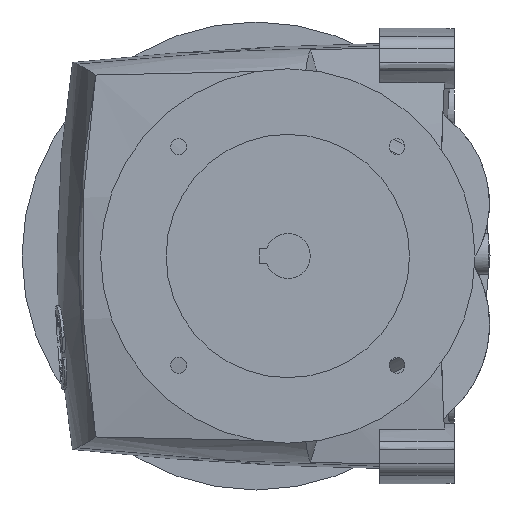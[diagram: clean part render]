
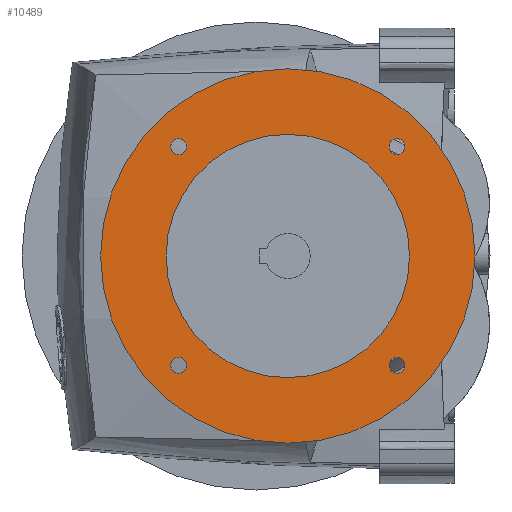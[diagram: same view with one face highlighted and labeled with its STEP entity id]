
A CAD part, left-side view. The second image highlights one B-rep face of the part: STEP entity #10489.
In plain terms, the highlighted planar face has unit normal (-1, 0, 0).
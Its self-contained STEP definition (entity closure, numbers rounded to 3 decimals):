
#1907=CARTESIAN_POINT('',(-157.,54.664,58.336));
#1908=DIRECTION('',(1.,0.,0.));
#1909=DIRECTION('',(0.,-1.,0.));
#1910=AXIS2_PLACEMENT_3D('',#1907,#1908,#1909);
#1912=CARTESIAN_POINT('',(-157.,54.664,58.336));
#1913=DIRECTION('',(1.,0.,0.));
#1914=DIRECTION('',(0.,1.,0.));
#1915=AXIS2_PLACEMENT_3D('',#1912,#1913,#1914);
#1917=CARTESIAN_POINT('',(-157.,171.336,-58.336));
#1918=DIRECTION('',(1.,0.,0.));
#1919=DIRECTION('',(0.,-1.,0.));
#1920=AXIS2_PLACEMENT_3D('',#1917,#1918,#1919);
#1922=CARTESIAN_POINT('',(-157.,171.336,-58.336));
#1923=DIRECTION('',(1.,0.,0.));
#1924=DIRECTION('',(0.,1.,0.));
#1925=AXIS2_PLACEMENT_3D('',#1922,#1923,#1924);
#1927=CARTESIAN_POINT('',(-157.,171.336,58.336));
#1928=DIRECTION('',(1.,0.,0.));
#1929=DIRECTION('',(0.,-1.,0.));
#1930=AXIS2_PLACEMENT_3D('',#1927,#1928,#1929);
#1932=CARTESIAN_POINT('',(-157.,171.336,58.336));
#1933=DIRECTION('',(1.,0.,0.));
#1934=DIRECTION('',(0.,1.,0.));
#1935=AXIS2_PLACEMENT_3D('',#1932,#1933,#1934);
#1937=CARTESIAN_POINT('',(-157.,54.664,-58.336));
#1938=DIRECTION('',(1.,0.,0.));
#1939=DIRECTION('',(0.,-1.,0.));
#1940=AXIS2_PLACEMENT_3D('',#1937,#1938,#1939);
#1942=CARTESIAN_POINT('',(-157.,54.664,-58.336));
#1943=DIRECTION('',(1.,0.,0.));
#1944=DIRECTION('',(0.,1.,0.));
#1945=AXIS2_PLACEMENT_3D('',#1942,#1943,#1944);
#1947=CARTESIAN_POINT('',(-157.,113.,0.));
#1948=DIRECTION('',(-1.,0.,0.));
#1949=DIRECTION('',(0.,1.,0.));
#1950=AXIS2_PLACEMENT_3D('',#1947,#1948,#1949);
#1952=CARTESIAN_POINT('',(-157.,113.,0.));
#1953=DIRECTION('',(-1.,0.,0.));
#1954=DIRECTION('',(0.,-1.,0.));
#1955=AXIS2_PLACEMENT_3D('',#1952,#1953,#1954);
#1957=CARTESIAN_POINT('',(-157.,113.,0.));
#1958=DIRECTION('',(1.,0.,0.));
#1959=DIRECTION('',(0.,-1.,0.));
#1960=AXIS2_PLACEMENT_3D('',#1957,#1958,#1959);
#1962=CARTESIAN_POINT('',(-157.,113.,0.));
#1963=DIRECTION('',(1.,0.,0.));
#1964=DIRECTION('',(0.,1.,0.));
#1965=AXIS2_PLACEMENT_3D('',#1962,#1963,#1964);
#8657=CARTESIAN_POINT('',(-157.,48.,0.));
#8658=CARTESIAN_POINT('',(-157.,178.,0.));
#8659=VERTEX_POINT('',#8657);
#8660=VERTEX_POINT('',#8658);
#8677=CARTESIAN_POINT('',(-157.,213.,0.));
#8678=CARTESIAN_POINT('',(-157.,13.,0.));
#8679=VERTEX_POINT('',#8677);
#8680=VERTEX_POINT('',#8678);
#9016=CARTESIAN_POINT('',(-157.,167.086,58.336));
#9017=CARTESIAN_POINT('',(-157.,175.586,58.336));
#9018=VERTEX_POINT('',#9016);
#9019=VERTEX_POINT('',#9017);
#9020=CARTESIAN_POINT('',(-157.,50.414,58.336));
#9021=CARTESIAN_POINT('',(-157.,58.914,58.336));
#9022=VERTEX_POINT('',#9020);
#9023=VERTEX_POINT('',#9021);
#9024=CARTESIAN_POINT('',(-157.,50.414,-58.336));
#9025=CARTESIAN_POINT('',(-157.,58.914,-58.336));
#9026=VERTEX_POINT('',#9024);
#9027=VERTEX_POINT('',#9025);
#9028=CARTESIAN_POINT('',(-157.,167.086,-58.336));
#9029=CARTESIAN_POINT('',(-157.,175.586,-58.336));
#9030=VERTEX_POINT('',#9028);
#9031=VERTEX_POINT('',#9029);
#10449=CARTESIAN_POINT('',(-157.,113.,0.));
#10450=DIRECTION('',(-1.,0.,0.));
#10451=DIRECTION('',(0.,1.,0.));
#10452=AXIS2_PLACEMENT_3D('',#10449,#10450,#10451);
#10453=PLANE('',#10452);
#10455=ORIENTED_EDGE('',*,*,#10454,.F.);
#10457=ORIENTED_EDGE('',*,*,#10456,.F.);
#10458=EDGE_LOOP('',(#10455,#10457));
#10459=FACE_OUTER_BOUND('',#10458,.F.);
#10460=ORIENTED_EDGE('',*,*,#10439,.F.);
#10462=ORIENTED_EDGE('',*,*,#10461,.F.);
#10463=EDGE_LOOP('',(#10460,#10462));
#10464=FACE_BOUND('',#10463,.F.);
#10466=ORIENTED_EDGE('',*,*,#10465,.F.);
#10468=ORIENTED_EDGE('',*,*,#10467,.F.);
#10469=EDGE_LOOP('',(#10466,#10468));
#10470=FACE_BOUND('',#10469,.F.);
#10472=ORIENTED_EDGE('',*,*,#10471,.F.);
#10474=ORIENTED_EDGE('',*,*,#10473,.F.);
#10475=EDGE_LOOP('',(#10472,#10474));
#10476=FACE_BOUND('',#10475,.F.);
#10478=ORIENTED_EDGE('',*,*,#10477,.F.);
#10480=ORIENTED_EDGE('',*,*,#10479,.F.);
#10481=EDGE_LOOP('',(#10478,#10480));
#10482=FACE_BOUND('',#10481,.F.);
#10484=ORIENTED_EDGE('',*,*,#10483,.F.);
#10486=ORIENTED_EDGE('',*,*,#10485,.F.);
#10487=EDGE_LOOP('',(#10484,#10486));
#10488=FACE_BOUND('',#10487,.F.);
#10489=ADVANCED_FACE('',(#10459,#10464,#10470,#10476,#10482,#10488),#10453,.T.);
#1911=CIRCLE('',#1910,4.25);
#1916=CIRCLE('',#1915,4.25);
#1921=CIRCLE('',#1920,4.25);
#1926=CIRCLE('',#1925,4.25);
#1931=CIRCLE('',#1930,4.25);
#1936=CIRCLE('',#1935,4.25);
#1941=CIRCLE('',#1940,4.25);
#1946=CIRCLE('',#1945,4.25);
#1951=CIRCLE('',#1950,100.);
#1956=CIRCLE('',#1955,100.);
#1961=CIRCLE('',#1960,65.);
#1966=CIRCLE('',#1965,65.);
#10439=EDGE_CURVE('',#9022,#9023,#1911,.T.);
#10454=EDGE_CURVE('',#8679,#8680,#1951,.T.);
#10456=EDGE_CURVE('',#8680,#8679,#1956,.T.);
#10461=EDGE_CURVE('',#9023,#9022,#1916,.T.);
#10465=EDGE_CURVE('',#9030,#9031,#1921,.T.);
#10467=EDGE_CURVE('',#9031,#9030,#1926,.T.);
#10471=EDGE_CURVE('',#9018,#9019,#1931,.T.);
#10473=EDGE_CURVE('',#9019,#9018,#1936,.T.);
#10477=EDGE_CURVE('',#9026,#9027,#1941,.T.);
#10479=EDGE_CURVE('',#9027,#9026,#1946,.T.);
#10483=EDGE_CURVE('',#8659,#8660,#1961,.T.);
#10485=EDGE_CURVE('',#8660,#8659,#1966,.T.);
